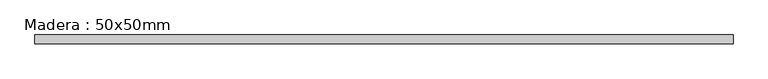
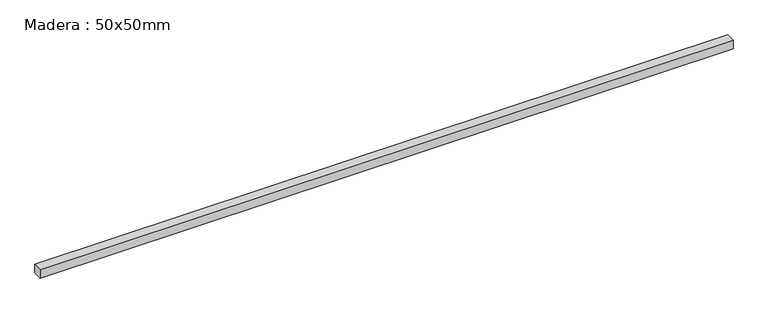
"""IFC4 building model written with IfcOpenShell, lengths in millimetres: beam geometry, Madera : 50x50mm."""

from ifc_helpers import new_model, si_unit, frame, origin, place, context, project, spatial, polyline, outline, extrude, source, transform, mapped, element, save


def madera_50x50mm_9d4e22ec(model_context):
    return source(origin(), model_context, "Body", "SweptSolid", [
        extrude(outline(polyline([(1926.5, 25.0), (1926.5, -25.0), (-1925.5, -25.0), (-1925.5, 25.0), (1926.5, 25.0)])), frame((0.0, 0.0, -25.0), z_axis=(0.0, 0.0, 1.0), x_axis=(1.0, 0.0, 0.0)), (0.0, 0.0, 1.0), 50.0),
    ])


if __name__ == "__main__":
    model = new_model("IFC4")
    model_context = context("Model", 3, world=origin())
    ifc_project = project(units=[si_unit("LENGTHUNIT", "METRE", prefix="MILLI")], contexts=[model_context])
    site = spatial("IfcSite", under=ifc_project)
    building = spatial("IfcBuilding", under=site)
    placement = place(None, origin())
    madera_50x50mm_shape = madera_50x50mm_9d4e22ec(model_context)
    element("IfcBeam", 1, ObjectType="Madera : 50x50mm", at=placement, inside=building, context=model_context, shape_type="MappedRepresentation", body=[
        mapped(madera_50x50mm_shape, transform((0.0, 0.0, 0.0), x_axis=(1.0, 0.0, 0.0), y_axis=(0.0, 1.0, 0.0), z_axis=(0.0, 0.0, 1.0))),
    ])
    save(model, "model.ifc")
